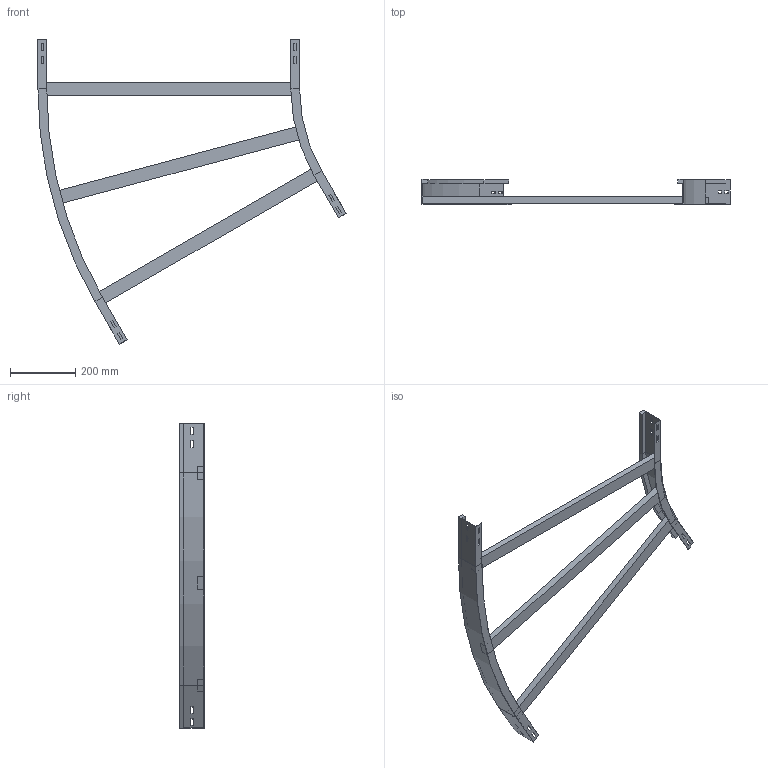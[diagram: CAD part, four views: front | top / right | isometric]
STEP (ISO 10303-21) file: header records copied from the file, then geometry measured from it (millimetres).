
FILE_DESCRIPTION (( 'STEP AP214' ), '1' );
FILE_NAME ('12B5C800.step', '2025-02-21T15:10:21', ( '' ), ( '' ), 'SwSTEP 2.0', 'SolidWorks 2023', '' );
FILE_SCHEMA (( 'AUTOMOTIVE_DESIGN' ));
Length unit declared in the file: millimetre
Products named in the file (4): 12B5C800; A2_LONGH.INTERNO 30°_H75_R500; A2_LONGH.ESTERNO 30°_H75_R500+800; TRAVERSINO_800
Assembly tree (5 placements, depth 2):
  12B5C800
    A2_LONGH.INTERNO 30°_H75_R500
    A2_LONGH.ESTERNO 30°_H75_R500+800
    TRAVERSINO_800  x3
Bounding box: 941.99 x 75 x 929.9 mm (x, y, z)
Volume: 2534003.3 mm3; surface area: 656328.8 mm2
Topology: 5 solids, 5 shells, 134 faces, 340 edges, 216 vertices
Faces by surface type: plane 126, cylinder 8
Entity records: 3821 total; most frequent: CARTESIAN_POINT 646, ORIENTED_EDGE 632, DIRECTION 592, EDGE_CURVE 316, LINE 300, VECTOR 300, VERTEX_POINT 200, EDGE_LOOP 154
